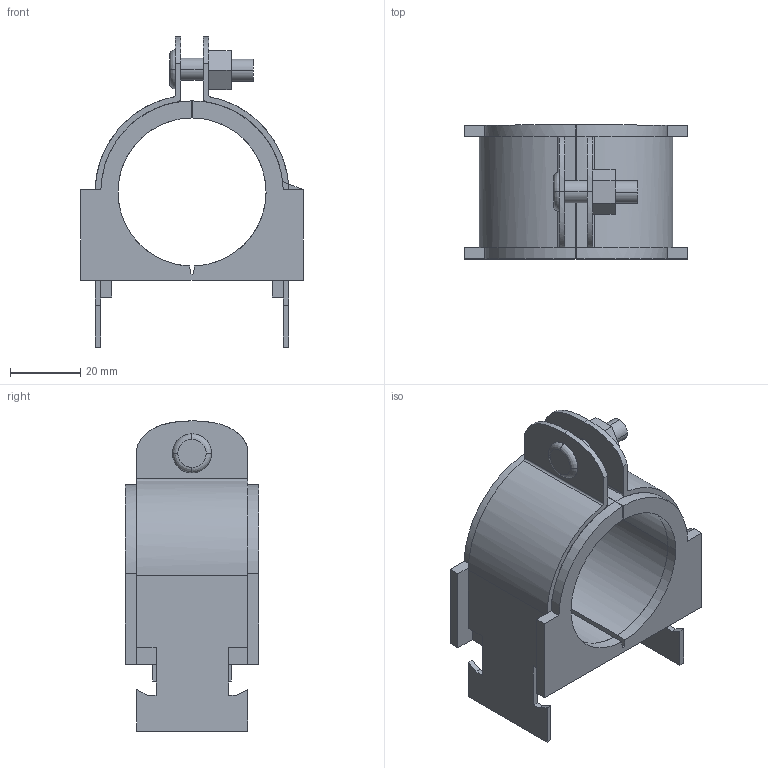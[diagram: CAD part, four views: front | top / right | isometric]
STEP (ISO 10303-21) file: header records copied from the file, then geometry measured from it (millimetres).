
FILE_DESCRIPTION(('TurboCAD Mac Pro'),'Build 980');
FILE_NAME('027N032.stp',' ',(''),(''),'ACIS Interop','IMSI','TurboCAD Mac Pro BY IMSI, INCORPORATED');
FILE_SCHEMA(('automotive_design'));
Length unit declared in the file: inch
Products named in the file (3): 1; 2; 3
Bounding box: 63.37 x 38.1 x 88.39 mm (x, y, z)
Volume: 49871.9 mm3; surface area: 29530.3 mm2
Topology: 3 solids, 3 shells, 141 faces, 376 edges, 246 vertices
Faces by surface type: plane 95, bspline 46
Entity records: 6080 total; most frequent: CARTESIAN_POINT 1696, ORIENTED_EDGE 752, DIRECTION 480, EDGE_CURVE 376, LINE 276, VECTOR 276, VERTEX_POINT 246, EDGE_LOOP 146
